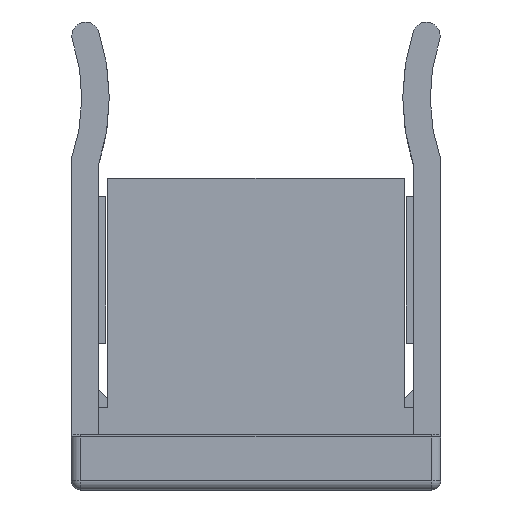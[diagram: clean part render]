
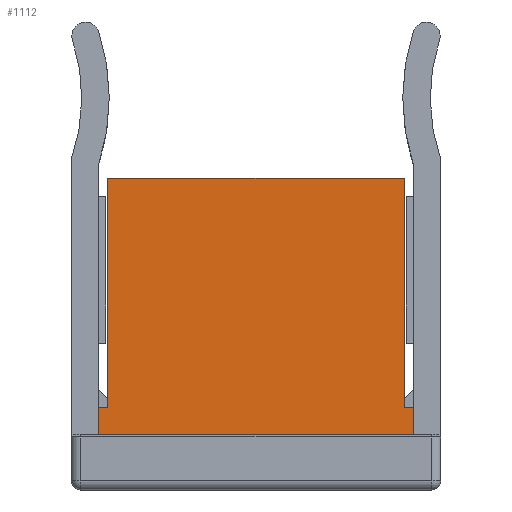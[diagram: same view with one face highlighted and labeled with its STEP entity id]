
A CAD part, front view. The second image highlights one B-rep face of the part: STEP entity #1112.
In plain terms, the highlighted planar face has unit normal (0, -1, 0).
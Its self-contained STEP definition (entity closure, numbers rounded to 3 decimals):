
#54 = VERTEX_POINT('',#55);
#55 = CARTESIAN_POINT('',(-17.15,-101.,6.));
#377 = EDGE_CURVE('',#54,#378,#380,.T.);
#378 = VERTEX_POINT('',#379);
#379 = CARTESIAN_POINT('',(-17.15,-101.,3.));
#380 = LINE('',#381,#382);
#381 = CARTESIAN_POINT('',(-17.15,-101.,32.5));
#382 = VECTOR('',#383,1.);
#383 = DIRECTION('',(0.,0.,-1.));
#385 = EDGE_CURVE('',#378,#386,#388,.T.);
#386 = VERTEX_POINT('',#387);
#387 = CARTESIAN_POINT('',(0.,-101.,3.));
#388 = LINE('',#389,#390);
#389 = CARTESIAN_POINT('',(-17.15,-101.,3.));
#390 = VECTOR('',#391,1.);
#391 = DIRECTION('',(1.,0.,0.));
#522 = EDGE_CURVE('',#54,#523,#525,.T.);
#523 = VERTEX_POINT('',#524);
#524 = CARTESIAN_POINT('',(-16.15,-101.,6.));
#525 = LINE('',#526,#527);
#526 = CARTESIAN_POINT('',(-17.15,-101.,6.));
#527 = VECTOR('',#528,1.);
#528 = DIRECTION('',(1.,0.,0.));
#1112 = ADVANCED_FACE('',(#1113),#1164,.F.);
#1113 = FACE_BOUND('',#1114,.F.);
#1114 = EDGE_LOOP('',(#1115,#1125,#1131,#1132,#1133,#1134,#1142,#1150,
    #1158));
#1115 = ORIENTED_EDGE('',*,*,#1116,.T.);
#1116 = EDGE_CURVE('',#1117,#1119,#1121,.T.);
#1117 = VERTEX_POINT('',#1118);
#1118 = CARTESIAN_POINT('',(17.15,-101.,6.));
#1119 = VERTEX_POINT('',#1120);
#1120 = CARTESIAN_POINT('',(17.15,-101.,3.));
#1121 = LINE('',#1122,#1123);
#1122 = CARTESIAN_POINT('',(17.15,-101.,32.5));
#1123 = VECTOR('',#1124,1.);
#1124 = DIRECTION('',(0.,0.,-1.));
#1125 = ORIENTED_EDGE('',*,*,#1126,.T.);
#1126 = EDGE_CURVE('',#1119,#386,#1127,.T.);
#1127 = LINE('',#1128,#1129);
#1128 = CARTESIAN_POINT('',(17.15,-101.,3.));
#1129 = VECTOR('',#1130,1.);
#1130 = DIRECTION('',(-1.,0.,0.));
#1131 = ORIENTED_EDGE('',*,*,#385,.F.);
#1132 = ORIENTED_EDGE('',*,*,#377,.F.);
#1133 = ORIENTED_EDGE('',*,*,#522,.T.);
#1134 = ORIENTED_EDGE('',*,*,#1135,.T.);
#1135 = EDGE_CURVE('',#523,#1136,#1138,.T.);
#1136 = VERTEX_POINT('',#1137);
#1137 = CARTESIAN_POINT('',(-16.15,-101.,31.));
#1138 = LINE('',#1139,#1140);
#1139 = CARTESIAN_POINT('',(-16.15,-101.,6.));
#1140 = VECTOR('',#1141,1.);
#1141 = DIRECTION('',(0.,0.,1.));
#1142 = ORIENTED_EDGE('',*,*,#1143,.T.);
#1143 = EDGE_CURVE('',#1136,#1144,#1146,.T.);
#1144 = VERTEX_POINT('',#1145);
#1145 = CARTESIAN_POINT('',(16.15,-101.,31.));
#1146 = LINE('',#1147,#1148);
#1147 = CARTESIAN_POINT('',(-16.15,-101.,31.));
#1148 = VECTOR('',#1149,1.);
#1149 = DIRECTION('',(1.,0.,0.));
#1150 = ORIENTED_EDGE('',*,*,#1151,.T.);
#1151 = EDGE_CURVE('',#1144,#1152,#1154,.T.);
#1152 = VERTEX_POINT('',#1153);
#1153 = CARTESIAN_POINT('',(16.15,-101.,6.));
#1154 = LINE('',#1155,#1156);
#1155 = CARTESIAN_POINT('',(16.15,-101.,31.));
#1156 = VECTOR('',#1157,1.);
#1157 = DIRECTION('',(0.,0.,-1.));
#1158 = ORIENTED_EDGE('',*,*,#1159,.T.);
#1159 = EDGE_CURVE('',#1152,#1117,#1160,.T.);
#1160 = LINE('',#1161,#1162);
#1161 = CARTESIAN_POINT('',(16.15,-101.,6.));
#1162 = VECTOR('',#1163,1.);
#1163 = DIRECTION('',(1.,0.,0.));
#1164 = PLANE('',#1165);
#1165 = AXIS2_PLACEMENT_3D('',#1166,#1167,#1168);
#1166 = CARTESIAN_POINT('',(0.,-101.,16.599));
#1167 = DIRECTION('',(0.,1.,0.));
#1168 = DIRECTION('',(0.,0.,1.));
